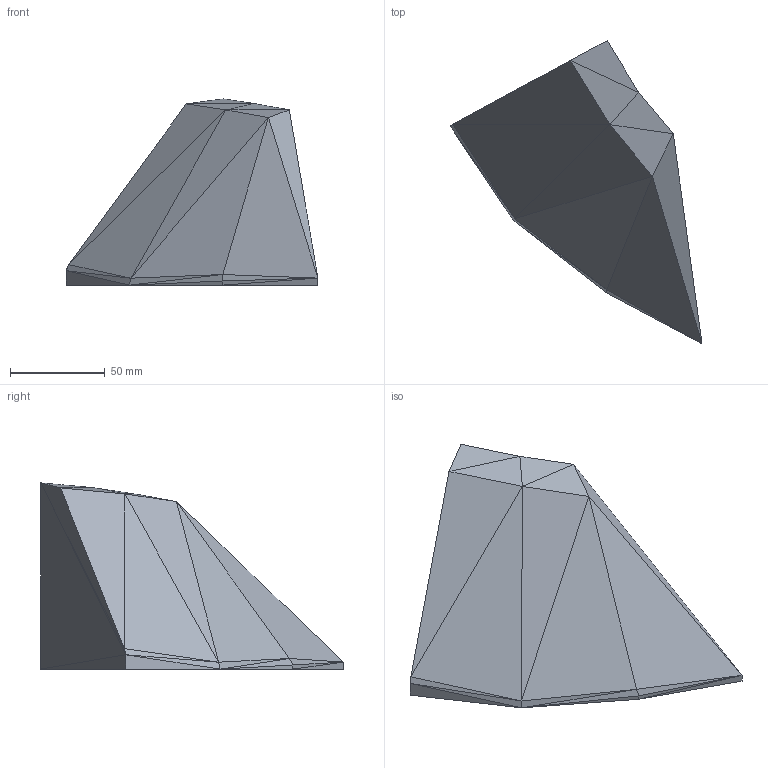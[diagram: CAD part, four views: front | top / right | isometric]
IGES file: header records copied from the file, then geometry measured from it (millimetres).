
Global section: file name: FRB Mould; native system: AutoCAD 2018 - English; preprocessor: Autodesk Translation Framework DWG producer (atf_dwg_producer); organization: unknown; date: 20180102.011141; units: millimetre
Bounding box: 132.73 x 159.5 x 98.13 mm (x, y, z)
Surface area: 45316.1 mm2 (no closed solid volume)
Topology: 0 solids, 0 shells, 34 faces, 153 edges, 204 vertices
Faces by surface type: bspline 34
